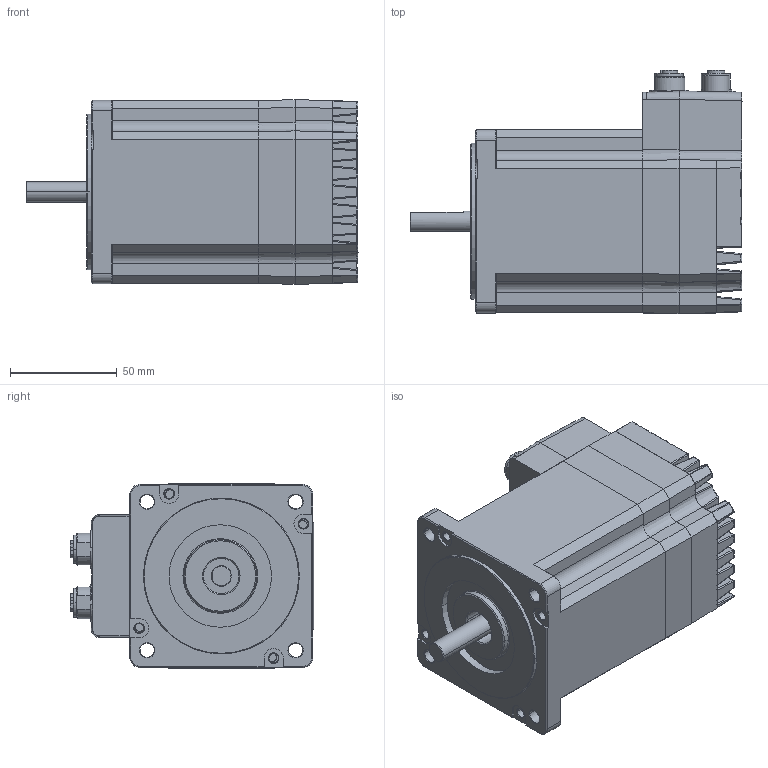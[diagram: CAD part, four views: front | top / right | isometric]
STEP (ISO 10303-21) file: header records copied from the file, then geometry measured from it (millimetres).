
FILE_DESCRIPTION((''),'2;1');
FILE_NAME('STEPPERASSY_ASM','2023-07-11T20:40:14',('KaviarasanNagaraj'),(''),'CREO PARAMETRIC BY PTC INC, 2021063','CREO PARAMETRIC BY PTC INC, 2021063','');
FILE_SCHEMA(('AUTOMOTIVE_DESIGN { 1 0 10303 214 1 1 1 1 }'));
Length unit declared in the file: millimetre
Products named in the file (10): M34_CON_R1; M34_CON_R2; MIS34_F_CONNECTOR; M34_S953; N34PIN1; N34PIN2; N34PIN3; N34PIN4; M34_ASM; STEPPERASSY_ASM
Assembly tree (9 placements, depth 3):
  STEPPERASSY_ASM
    M34_ASM
      M34_CON_R1
      M34_CON_R2
      MIS34_F_CONNECTOR
      M34_S953
      N34PIN1
      N34PIN2
      N34PIN3
      N34PIN4
Bounding box: 155.5 x 113.9 x 86.41 mm (x, y, z)
Volume: 849890.1 mm3; surface area: 118510.3 mm2
Topology: 8 solids, 9 shells, 1230 faces, 3286 edges, 2029 vertices
Faces by surface type: cylinder 493, plane 485, sphere 109, cone 93, bspline 38, extrusion 8, torus 4
Entity records: 55181 total; most frequent: CARTESIAN_POINT 10343, DIRECTION 6707, ORIENTED_EDGE 6336, PRESENTATION_STYLE_ASSIGNMENT 3409, STYLED_ITEM 3213, CURVE_STYLE 3205, EDGE_CURVE 3168, AXIS2_PLACEMENT_3D 2514
